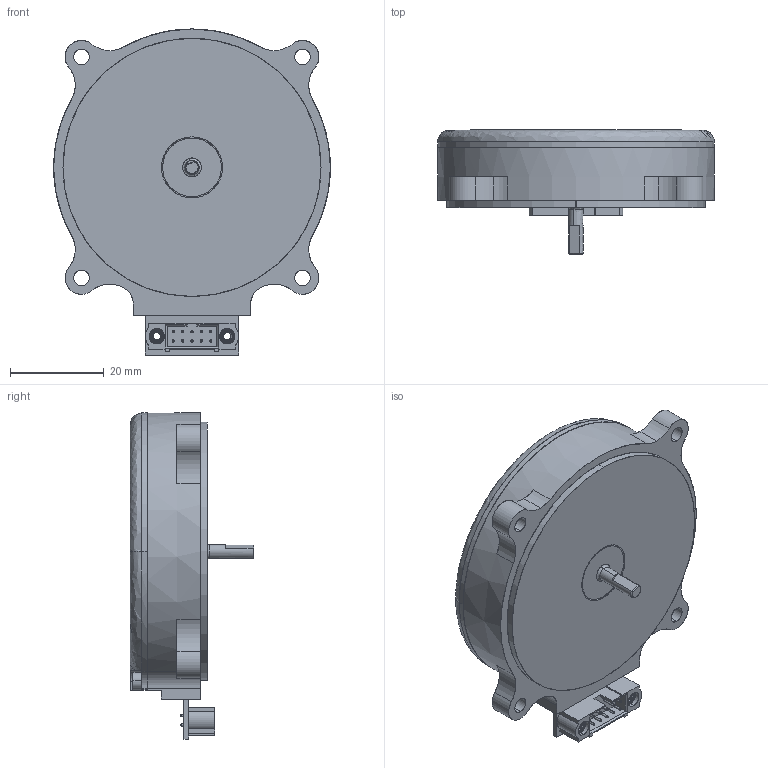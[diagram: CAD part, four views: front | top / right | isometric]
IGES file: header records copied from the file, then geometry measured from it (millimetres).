
Start section: SolidWorks IGES file using analytic representation for surfaces
Global section: file name: C:\Zettlex Data\Mechanical Drawings\1615\58mm Screw Mount 3.000mm Solid AC1 Rev 1-0.IGS; native system: SolidWorks 2017; preprocessor: SolidWorks 2017; author: Istvan; date: 180126.103115; units: millimetre
Bounding box: 59 x 26.42 x 69.5 mm (x, y, z)
Surface area: 16911.3 mm2 (no closed solid volume)
Topology: 0 solids, 0 shells, 766 faces, 9681 edges, 9673 vertices
Faces by surface type: bspline 427, revolution 339
